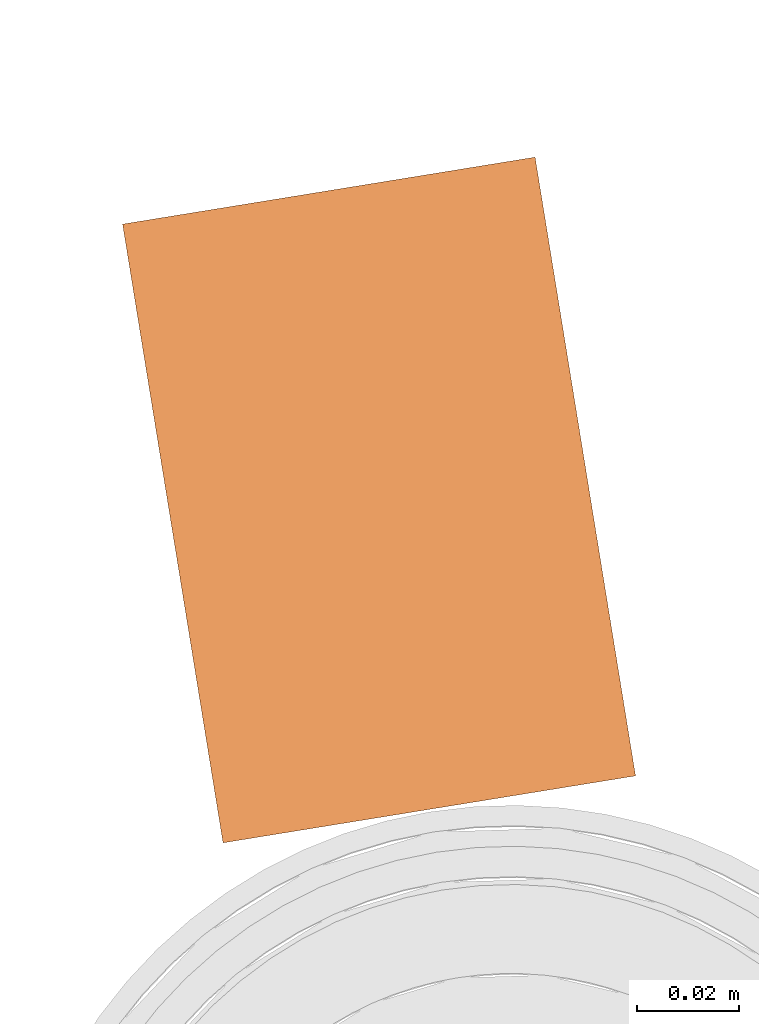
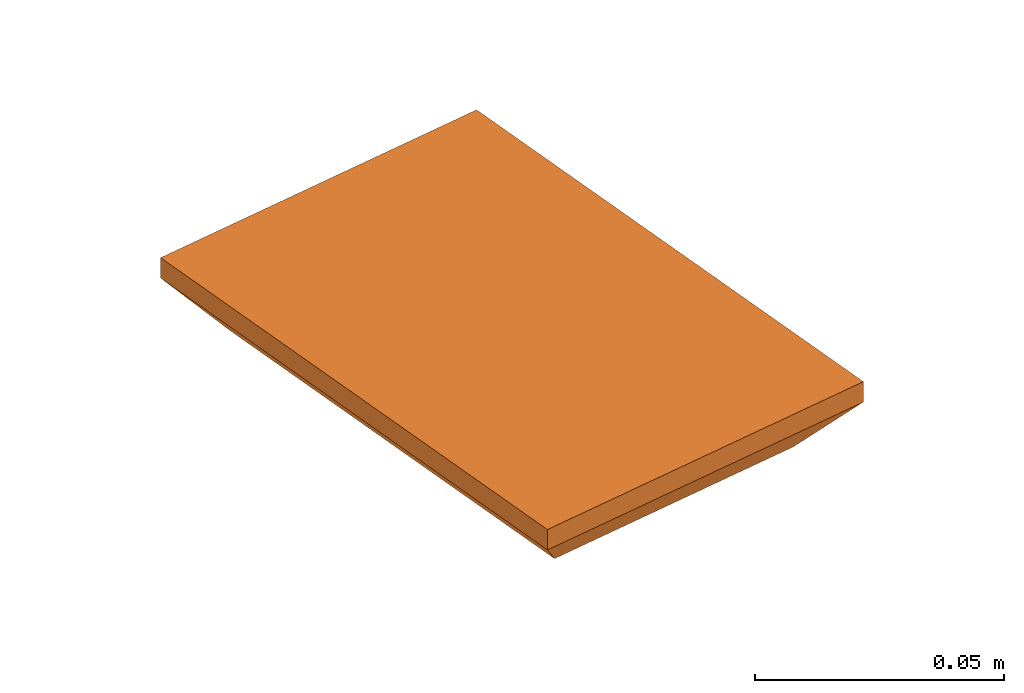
# One storey, part 16 of 20: 1 proxy.
"""IFC2X3 building model written with IfcOpenShell, lengths in millimetres."""

from ifc_helpers import new_model, entity, si_unit, converted_unit, derived_unit, direction, frame, origin, origin_with_axes, place, context, subcontext, project, spatial, faceted_brep, source, transform, mapped, material, type_object, element, save


model = new_model("IFC2X3")

# Units and contexts
model_context = context("Model", 3, precision=0.01, world=origin(), true_north=direction((6.12323399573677e-17, 1.0)))
plan_context = context("Plan", 3, precision=1e-05, world=origin_with_axes())
body_context = subcontext(model_context, "Body", "Model", "MODEL_VIEW")
ifc_project = project(units=[converted_unit("PLANEANGLEUNIT", "DEGREE", entity("IfcPositiveLengthMeasure", 0.0174532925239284), si_unit("PLANEANGLEUNIT", "RADIAN"), dimensions=[0, 0, 0, 0, 0, 0, 0]), si_unit("AREAUNIT", "SQUARE_METRE"), si_unit("LENGTHUNIT", "METRE", prefix="MILLI"), si_unit("MASSUNIT", "GRAM", prefix="KILO"), si_unit("POWERUNIT", "WATT"), si_unit("PRESSUREUNIT", "PASCAL", prefix="KILO"), si_unit("FORCEUNIT", "NEWTON", prefix="KILO"), si_unit("ELECTRICVOLTAGEUNIT", "VOLT"), si_unit("ELECTRICCURRENTUNIT", "AMPERE"), si_unit("THERMODYNAMICTEMPERATUREUNIT", "DEGREE_CELSIUS"), si_unit("TIMEUNIT", "SECOND"), si_unit("VOLUMEUNIT", "CUBIC_METRE"), derived_unit("LINEARVELOCITYUNIT", [(si_unit("LENGTHUNIT", "METRE"), 1), (si_unit("TIMEUNIT", "SECOND"), -1)]), derived_unit("VOLUMETRICFLOWRATEUNIT", [(si_unit("VOLUMEUNIT", "CUBIC_METRE"), 1), (si_unit("TIMEUNIT", "SECOND"), -1)]), derived_unit("THERMALTRANSMITTANCEUNIT", [(si_unit("POWERUNIT", "WATT"), 1), (si_unit("THERMODYNAMICTEMPERATUREUNIT", "KELVIN"), -1), (si_unit("AREAUNIT", "SQUARE_METRE"), -1)]), derived_unit("SOUNDPRESSUREUNIT", [(si_unit("PRESSUREUNIT", "PASCAL"), 1)])], contexts=[model_context, plan_context])

# Site, building, storey
site_placement = place(None, frame((-0.219946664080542, 0.12226179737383, 0.0), z_axis=(0.0, 0.0, 1.0), x_axis=(-0.160236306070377, 0.987078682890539, 0.0)))
site = spatial("IfcSite", under=ifc_project, at=site_placement, Name="Default", CompositionType="ELEMENT")
building_placement = place(site_placement, origin_with_axes())
building = spatial("IfcBuilding", under=site, at=building_placement, CompositionType="ELEMENT")
storey_placement = place(building_placement, frame((0.0, 0.0, 50999.9999999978), z_axis=(0.0, 0.0, 1.0), x_axis=(1.0, 0.0, 0.0)))
storey = spatial("IfcBuildingStorey", under=building, at=storey_placement, Name="Nivå D", CompositionType="ELEMENT", Elevation=50999.9999999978)

# Proxy
ifc_material = material(Name="<Unnamed>")
building_element_proxy_type = type_object("IfcBuildingElementProxyType", Name="Dobbel stikk i tak m_boks 2P+J PH:Earthed reces socket c2", PredefinedType="NOTDEFINED", material=ifc_material)
shared_shape = source(origin(), body_context, "Body", "Brep", [
    faceted_brep([(25.250000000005, -18.3000000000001, -17.8944271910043), (25.250000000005, -18.5954451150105, -17.489897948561), (25.250000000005, -18.7000000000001, -17.0), (25.250000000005, -18.7000000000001, -5.0), (25.250000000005, -19.5000000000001, -5.0), (25.250000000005, -19.5000000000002, -17.0), (25.250000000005, -18.9142135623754, -18.4142135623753), (25.250000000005, -17.5000000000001, -19.0), (25.250000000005, -17.5000000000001, -11.0), (25.250000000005, -18.3000000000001, -11.0), (24.250000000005, -19.5000000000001, -5.0), (24.250000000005, -18.7000000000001, -5.0), (24.250000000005, -18.7000000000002, -17.0), (24.250000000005, -18.5954451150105, -17.489897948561), (24.250000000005, -18.3000000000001, -17.8944271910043), (24.250000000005, -18.3000000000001, -11.0), (24.250000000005, -17.5000000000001, -11.0), (24.250000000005, -17.5000000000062, -19.0), (24.250000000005, -18.9142135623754, -18.4142135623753), (24.250000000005, -19.5000000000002, -17.0)], [[[0, 1, 2, 3, 4, 5, 6, 7, 8, 9]], [[10, 11, 12, 13, 14, 15, 16, 17, 18, 19]], [[11, 10, 4, 3]], [[12, 11, 3, 2]], [[2, 1, 13, 12]], [[0, 14, 13, 1]], [[15, 14, 0, 9]], [[16, 15, 9, 8]], [[17, 16, 8, 7]], [[17, 7, 6, 18]], [[6, 5, 19, 18]], [[10, 19, 5, 4]]]),
    faceted_brep([(24.250000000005, 18.3000000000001, -17.8944271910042), (24.250000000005, 18.5954451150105, -17.4898979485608), (24.250000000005, 18.7000000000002, -17.0), (24.250000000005, 18.7000000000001, -5.0), (24.250000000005, 19.5000000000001, -5.0), (24.250000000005, 19.5000000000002, -17.0), (24.250000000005, 18.9142135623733, -18.4142135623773), (24.250000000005, 17.5000000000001, -19.0), (24.250000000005, 17.5000000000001, -11.0), (24.250000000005, 18.3000000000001, -11.0), (25.250000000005, 19.5000000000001, -5.0), (25.250000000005, 18.7000000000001, -5.0), (25.250000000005, 18.7000000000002, -17.0), (25.250000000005, 18.5954451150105, -17.4898979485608), (25.250000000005, 18.3000000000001, -17.8944271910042), (25.250000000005, 18.3000000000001, -11.0), (25.250000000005, 17.5000000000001, -11.0), (25.250000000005, 17.5000000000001, -19.0), (25.250000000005, 18.9142135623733, -18.4142135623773), (25.250000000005, 19.5000000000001, -17.0)], [[[0, 1, 2, 3, 4, 5, 6, 7, 8, 9]], [[10, 11, 12, 13, 14, 15, 16, 17, 18, 19]], [[9, 8, 16, 15]], [[0, 9, 15, 14]], [[14, 13, 1, 0]], [[12, 2, 1, 13]], [[3, 2, 12, 11]], [[4, 3, 11, 10]], [[5, 4, 10, 19]], [[5, 19, 18, 6]], [[18, 17, 7, 6]], [[8, 7, 17, 16]]]),
    faceted_brep([(-25.249999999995, 18.9142135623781, -18.4142135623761), (-25.249999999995, 19.5000000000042, -17.0), (-25.249999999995, 19.5000000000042, -5.0), (-25.249999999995, 18.7000000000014, -5.0), (-25.249999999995, 18.7000000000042, -17.0), (-25.249999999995, 18.5954451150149, -17.4898979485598), (-25.249999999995, 18.3000000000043, -17.8944271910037), (-25.249999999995, 18.3000000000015, -11.0), (-25.249999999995, 17.5000000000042, -11.0), (-25.249999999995, 17.5000000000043, -19.0), (-26.249999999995, 19.5000000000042, -5.0), (-26.249999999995, 19.5000000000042, -17.0), (-26.249999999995, 18.9142135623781, -18.4142135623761), (-26.249999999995, 17.5000000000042, -19.0), (-26.249999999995, 17.5000000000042, -11.0), (-26.249999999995, 18.3000000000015, -11.0), (-26.249999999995, 18.3000000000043, -17.8944271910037), (-26.249999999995, 18.5954451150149, -17.4898979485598), (-26.249999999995, 18.7000000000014, -17.0), (-26.249999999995, 18.7000000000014, -5.0)], [[[0, 1, 2, 3, 4, 5, 6, 7, 8, 9]], [[10, 11, 12, 13, 14, 15, 16, 17, 18, 19]], [[11, 10, 2, 1]], [[11, 1, 0, 12]], [[0, 9, 13, 12]], [[14, 13, 9, 8]], [[16, 15, 7, 6]], [[6, 5, 17, 16]], [[4, 18, 17, 5]], [[19, 18, 4, 3]], [[10, 19, 3, 2]], [[15, 14, 8, 7]]]),
    faceted_brep([(-25.249999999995, -17.4999999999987, -19.0), (-25.249999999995, -17.4999999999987, -5.0), (-25.249999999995, -18.2999999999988, -5.0), (-25.249999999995, -18.2999999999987, -17.8944271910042), (-25.249999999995, -18.5954451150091, -17.4898979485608), (-25.249999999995, -18.6999999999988, -17.0), (-25.249999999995, -18.6999999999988, -11.0), (-25.249999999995, -19.4999999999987, -11.0), (-25.249999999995, -19.4999999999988, -17.0), (-25.249999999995, -18.9142135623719, -18.4142135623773), (-26.249999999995, -17.4999999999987, -5.0), (-26.249999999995, -17.4999999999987, -19.0), (-26.249999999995, -18.9142135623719, -18.4142135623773), (-26.249999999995, -19.4999999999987, -17.0), (-26.249999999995, -19.4999999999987, -11.0), (-26.249999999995, -18.6999999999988, -11.0), (-26.249999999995, -18.6999999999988, -17.0), (-26.249999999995, -18.5954451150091, -17.4898979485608), (-26.249999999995, -18.2999999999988, -17.8944271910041), (-26.249999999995, -18.2999999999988, -5.0)], [[[0, 1, 2, 3, 4, 5, 6, 7, 8, 9]], [[10, 11, 12, 13, 14, 15, 16, 17, 18, 19]], [[11, 10, 1, 0]], [[0, 9, 12, 11]], [[12, 9, 8, 13]], [[14, 13, 8, 7]], [[15, 14, 7, 6]], [[16, 15, 6, 5]], [[4, 17, 16, 5]], [[3, 18, 17, 4]], [[19, 18, 3, 2]], [[10, 19, 2, 1]]]),
    faceted_brep([(15.7500000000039, -2.5, -5.0), (16.3750000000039, -1.875, -5.0), (17.0, -1.25, -5.0), (17.6250000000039, -0.625000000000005, -5.0), (18.2500000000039, 0.0, -5.0), (17.7008289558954, 0.54917104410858, -5.0), (17.0, 1.25, -5.0), (16.375000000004, 1.875, -5.0), (15.750000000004, 2.5, -5.0), (15.125000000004, 1.87500000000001, -5.0), (14.500000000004, 1.25000000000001, -5.0), (13.8750000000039, 0.625000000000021, -5.0), (13.2500000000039, 0.0, -5.0), (13.7991710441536, -0.549171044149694, -5.0), (14.5000000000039, -1.25, -5.0), (15.1250000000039, -1.875, -5.0), (17.7008289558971, -0.549171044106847, -5.20000000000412), (17.1516579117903, -1.09834208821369, -5.20000000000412), (16.4508289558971, -1.79917104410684, -5.20000000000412), (15.7500000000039, -2.5, -5.20000000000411), (15.1250000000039, -1.875, -5.20000000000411), (14.5000000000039, -1.25, -5.20000000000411), (13.8750000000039, -0.625, -5.20000000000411), (13.2500000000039, 0.0, -5.2000000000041), (13.7991710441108, 0.54917104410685, -5.20000000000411), (14.3483420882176, 1.09834208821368, -5.20000000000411), (15.0491710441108, 1.79917104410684, -5.20000000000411), (15.750000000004, 2.5, -5.20000000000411), (16.375000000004, 1.875, -5.20000000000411), (17.0, 1.25, -5.20000000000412), (17.6250000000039, 0.624999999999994, -5.20000000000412), (18.2500000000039, 0.0, -5.20000000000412)], [[[0, 1, 2, 3, 4, 5, 6, 7, 8, 9, 10, 11, 12, 13, 14, 15]], [[16, 17, 18, 19, 20, 21, 22, 23, 24, 25, 26, 27, 28, 29, 30, 31]], [[29, 28, 27, 8, 7, 6, 5, 4, 31, 30]], [[8, 27, 26, 25, 24, 23, 12, 11, 10, 9]], [[21, 20, 19, 0, 15, 14, 13, 12, 23, 22]], [[0, 19, 18, 17, 16, 31, 4, 3, 2, 1]]]),
    faceted_brep([(35.0491710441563, -1.79917104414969, -5.20000000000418), (34.348342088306, -1.09834208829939, -5.20000000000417), (33.7991710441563, -0.549171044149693, -5.20000000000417), (33.2500000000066, 0.0, -5.20000000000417), (33.8750000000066, 0.625000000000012, -5.20000000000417), (34.5000000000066, 1.25000000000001, -5.20000000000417), (35.1250000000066, 1.875, -5.20000000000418), (35.7500000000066, 2.5, -5.20000000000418), (36.450828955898, 1.79917104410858, -5.20000000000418), (37.1516579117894, 1.09834208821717, -5.20000000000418), (37.700828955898, 0.54917104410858, -5.20000000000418), (38.2500000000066, 0.0, -5.20000000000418), (37.6250000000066, -0.625000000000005, -5.20000000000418), (37.0, -1.25, -5.20000000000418), (36.3750000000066, -1.875, -5.20000000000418), (35.7500000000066, -2.5, -5.20000000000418), (35.1250000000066, 1.87500000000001, -5.0), (34.5000000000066, 1.25000000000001, -5.0), (33.7991710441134, 0.549171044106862, -5.0), (33.2500000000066, 0.0, -5.0), (33.8750000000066, -0.625, -5.0), (34.5000000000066, -1.25, -5.0), (35.1250000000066, -1.875, -5.0), (35.7500000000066, -2.5, -5.0), (36.3750000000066, -1.875, -5.0), (37.0, -1.25, -5.0), (37.7008289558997, -0.549171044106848, -5.0), (38.2500000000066, 0.0, -5.0), (37.6250000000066, 0.624999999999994, -5.0), (37.0, 1.25, -5.0), (36.3750000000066, 1.875, -5.0), (35.7500000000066, 2.5, -5.0)], [[[0, 1, 2, 3, 4, 5, 6, 7, 8, 9, 10, 11, 12, 13, 14, 15]], [[16, 17, 18, 19, 20, 21, 22, 23, 24, 25, 26, 27, 28, 29, 30, 31]], [[30, 29, 28, 27, 11, 10, 9, 8, 7, 31]], [[31, 7, 6, 5, 4, 3, 19, 18, 17, 16]], [[22, 21, 20, 19, 3, 2, 1, 0, 15, 23]], [[23, 15, 14, 13, 12, 11, 27, 26, 25, 24]]]),
    faceted_brep([(-36.3749999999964, 1.87500000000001, -5.0), (-37.0, 1.25000000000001, -5.0), (-37.6249999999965, 0.625000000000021, -5.0), (-38.2499999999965, 0.0, -5.0), (-37.7008289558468, -0.549171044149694, -5.0), (-37.0, -1.25, -5.0), (-36.3749999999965, -1.875, -5.0), (-35.7499999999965, -2.5, -5.0), (-35.1249999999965, -1.875, -5.0), (-34.4999999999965, -1.25, -5.0), (-33.8749999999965, -0.625000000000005, -5.0), (-33.2499999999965, 0.0, -5.0), (-33.799171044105, 0.54917104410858, -5.0), (-34.4999999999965, 1.25, -5.0), (-35.1249999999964, 1.875, -5.0), (-35.7499999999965, 2.5, -5.0), (-36.3749999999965, -1.875, -5.20000000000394), (-37.0, -1.25, -5.20000000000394), (-37.6249999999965, -0.625, -5.20000000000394), (-38.2499999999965, 0.0, -5.20000000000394), (-37.7008289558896, 0.54917104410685, -5.20000000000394), (-37.1516579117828, 1.09834208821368, -5.20000000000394), (-36.4508289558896, 1.79917104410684, -5.20000000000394), (-35.7499999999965, 2.5, -5.20000000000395), (-35.1249999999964, 1.875, -5.20000000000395), (-34.4999999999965, 1.25, -5.20000000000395), (-33.8749999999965, 0.624999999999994, -5.20000000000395), (-33.2499999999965, 0.0, -5.20000000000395), (-33.7991710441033, -0.549171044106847, -5.20000000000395), (-34.3483420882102, -1.09834208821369, -5.20000000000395), (-35.0491710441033, -1.79917104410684, -5.20000000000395), (-35.7499999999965, -2.5, -5.20000000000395)], [[[0, 1, 2, 3, 4, 5, 6, 7, 8, 9, 10, 11, 12, 13, 14, 15]], [[16, 17, 18, 19, 20, 21, 22, 23, 24, 25, 26, 27, 28, 29, 30, 31]], [[25, 24, 23, 15, 14, 13, 12, 11, 27, 26]], [[15, 23, 22, 21, 20, 19, 3, 2, 1, 0]], [[17, 16, 31, 7, 6, 5, 4, 3, 19, 18]], [[7, 31, 30, 29, 28, 27, 11, 10, 9, 8]]]),
    faceted_brep([(-16.4508289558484, -1.79917104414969, -5.20000000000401), (-17.1516579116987, -1.09834208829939, -5.20000000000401), (-17.7008289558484, -0.549171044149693, -5.200000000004), (-18.2499999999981, 0.0, -5.200000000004), (-17.6249999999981, 0.625000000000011, -5.200000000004), (-17.0, 1.25000000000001, -5.20000000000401), (-16.3749999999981, 1.875, -5.20000000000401), (-15.7499999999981, 2.5, -5.20000000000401), (-15.0491710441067, 1.79917104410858, -5.20000000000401), (-14.3483420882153, 1.09834208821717, -5.20000000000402), (-13.7991710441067, 0.549171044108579, -5.20000000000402), (-13.2499999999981, 0.0, -5.20000000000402), (-13.8749999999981, -0.625000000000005, -5.20000000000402), (-14.4999999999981, -1.25, -5.20000000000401), (-15.1249999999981, -1.875, -5.20000000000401), (-15.7499999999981, -2.5, -5.20000000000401), (-16.3749999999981, 1.87500000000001, -5.0), (-17.0, 1.25000000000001, -5.0), (-17.7008289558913, 0.549171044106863, -5.0), (-18.2499999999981, 0.0, -5.0), (-17.6249999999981, -0.625, -5.0), (-17.0, -1.25, -5.0), (-16.3749999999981, -1.875, -5.0), (-15.7499999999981, -2.5, -5.0), (-15.1249999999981, -1.875, -5.0), (-14.4999999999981, -1.25, -5.0), (-13.799171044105, -0.549171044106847, -5.0), (-13.2499999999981, 0.0, -5.0), (-13.8749999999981, 0.624999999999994, -5.0), (-14.4999999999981, 1.25, -5.0), (-15.1249999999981, 1.875, -5.0), (-15.7499999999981, 2.5, -5.0)], [[[0, 1, 2, 3, 4, 5, 6, 7, 8, 9, 10, 11, 12, 13, 14, 15]], [[16, 17, 18, 19, 20, 21, 22, 23, 24, 25, 26, 27, 28, 29, 30, 31]], [[30, 29, 28, 27, 11, 10, 9, 8, 7, 31]], [[31, 7, 6, 5, 4, 3, 19, 18, 17, 16]], [[22, 21, 20, 19, 3, 2, 1, 0, 15, 23]], [[23, 15, 14, 13, 12, 11, 27, 26, 25, 24]]]),
    faceted_brep([(-51.5000000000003, -31.0, -17.0), (-35.7500000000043, -17.3205080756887, -17.0), (-30.9263809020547, -19.3185165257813, -17.0), (-39.8921356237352, -14.1421356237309, -17.0), (-25.750000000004, -20.0, -17.0), (-20.5736190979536, -19.3185165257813, -17.0), (20.5736190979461, -19.3185165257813, -17.0), (-43.070508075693, -10.0, -17.0), (-45.0685165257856, -5.1763809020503, -17.0), (-45.7500000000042, 0.0, -17.0), (51.5000000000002, -31.0, -17.0), (-51.5000000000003, 31.0, -17.0), (-45.0685165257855, 5.17638090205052, -17.0), (-43.0705080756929, 10.0, -17.0), (-39.892135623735, 14.142135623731, -17.0), (-35.7500000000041, 17.3205080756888, -17.0), (-30.9263809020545, 19.3185165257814, -17.0), (-25.7500000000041, 20.0, -17.0), (-20.5736190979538, 19.3185165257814, -17.0), (20.5736190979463, 19.3185165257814, -17.0), (51.5000000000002, 31.0, -17.0), (25.7499999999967, 20.0, -17.0), (30.926380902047, 19.3185165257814, -17.0), (35.7499999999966, 17.3205080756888, -17.0), (39.8921356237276, 14.142135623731, -17.0), (43.0705080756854, 10.0, -17.0), (45.068516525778, 5.1763809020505, -17.0), (45.7499999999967, 0.0, -17.0), (25.7499999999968, -20.0, -17.0), (30.9263809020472, -19.3185165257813, -17.0), (35.7499999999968, -17.3205080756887, -17.0), (39.8921356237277, -14.1421356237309, -17.0), (43.0705080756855, -10.0, -17.0), (45.0685165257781, -5.17638090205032, -17.0), (15.7499999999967, 17.3205080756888, -17.0), (-15.7500000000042, 17.3205080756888, -17.0), (11.6078643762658, 14.142135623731, -17.0), (-11.6078643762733, 14.142135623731, -17.0), (8.42949192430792, 10.0, -17.0), (-8.42949192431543, 10.0, -17.0), (6.4314834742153, 5.17638090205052, -17.0), (-6.43148347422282, 5.1763809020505, -17.0), (-5.75000000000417, 0.0, -17.0), (5.74999999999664, 0.0, -17.0), (6.43148347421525, -5.1763809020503, -17.0), (-6.43148347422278, -5.17638090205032, -17.0), (-8.42949192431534, -10.0, -17.0), (8.42949192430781, -10.0, -17.0), (-11.6078643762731, -14.1421356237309, -17.0), (11.6078643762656, -14.1421356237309, -17.0), (-15.7500000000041, -17.3205080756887, -17.0), (15.7499999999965, -17.3205080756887, -17.0), (61.5000000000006, -41.0, -5.0), (35.7499999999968, -17.3205080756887, -5.0), (30.9263809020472, -19.3185165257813, -5.0), (39.8921356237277, -14.1421356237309, -5.0), (25.7499999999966, -20.0, -5.0), (20.5736190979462, -19.3185165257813, -5.0), (-20.5736190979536, -19.3185165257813, -5.0), (43.0705080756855, -10.0, -5.0), (45.0685165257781, -5.17638090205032, -5.0), (45.7499999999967, 0.0, -5.0), (-61.5000000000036, -41.0, -5.0), (61.5000000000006, 41.0, -5.0), (45.068516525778, 5.1763809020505, -5.0), (43.0705080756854, 10.0, -5.0), (39.8921356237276, 14.142135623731, -5.0), (35.7499999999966, 17.3205080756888, -5.0), (30.9263809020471, 19.3185165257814, -5.0), (25.7499999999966, 20.0, -5.0), (20.5736190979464, 19.3185165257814, -5.0), (-20.5736190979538, 19.3185165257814, -5.0), (-61.5000000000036, 41.0, -5.0), (-25.7500000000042, 20.0, -5.0), (-30.9263809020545, 19.3185165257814, -5.0), (-35.750000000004, 17.3205080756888, -5.0), (-39.892135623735, 14.142135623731, -5.0), (-43.0705080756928, 10.0, -5.0), (-45.0685165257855, 5.17638090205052, -5.0), (-45.7500000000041, 0.0, -5.0), (-25.7500000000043, -20.0, -5.0), (-30.9263809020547, -19.3185165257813, -5.0), (-35.7500000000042, -17.3205080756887, -5.0), (-39.8921356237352, -14.1421356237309, -5.0), (-43.070508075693, -10.0, -5.0), (-45.0685165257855, -5.1763809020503, -5.0), (-15.7500000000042, 17.3205080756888, -5.0), (15.7499999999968, 17.3205080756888, -5.0), (-11.6078643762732, 14.142135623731, -5.0), (11.6078643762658, 14.142135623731, -5.0), (-8.4294919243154, 10.0, -5.0), (8.42949192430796, 10.0, -5.0), (-6.43148347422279, 5.1763809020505, -5.0), (6.43148347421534, 5.17638090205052, -5.0), (5.74999999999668, 0.0, -5.0), (-5.75000000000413, 0.0, -5.0), (-6.43148347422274, -5.17638090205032, -5.0), (6.43148347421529, -5.1763809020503, -5.0), (8.42949192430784, -10.0, -5.0), (-8.4294919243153, -10.0, -5.0), (11.6078643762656, -14.1421356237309, -5.0), (-11.6078643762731, -14.1421356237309, -5.0), (15.7499999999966, -17.3205080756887, -5.0), (-15.750000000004, -17.3205080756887, -5.0)], [[[0, 1, 2]], [[1, 0, 3]], [[0, 2, 4]], [[4, 5, 0]], [[0, 5, 6]], [[7, 3, 0]], [[8, 7, 0]], [[0, 9, 8]], [[6, 10, 0]], [[9, 0, 11]], [[12, 9, 11]], [[13, 12, 11]], [[11, 14, 13]], [[14, 11, 15]], [[15, 11, 16]], [[17, 16, 11]], [[18, 17, 11]], [[11, 19, 18]], [[19, 11, 20]], [[21, 19, 20]], [[20, 22, 21]], [[22, 20, 23]], [[24, 23, 20]], [[24, 20, 25]], [[26, 25, 20]], [[27, 26, 20]], [[27, 20, 10]], [[6, 28, 10]], [[29, 10, 28]], [[10, 29, 30]], [[10, 30, 31]], [[31, 32, 10]], [[32, 33, 10]], [[10, 33, 27]], [[19, 34, 18]], [[35, 18, 34]], [[36, 35, 34]], [[37, 35, 36]], [[36, 38, 37]], [[39, 37, 38]], [[38, 40, 39]], [[41, 39, 40]], [[40, 42, 41]], [[42, 40, 43]], [[43, 44, 42]], [[45, 42, 44]], [[46, 45, 44]], [[44, 47, 46]], [[48, 46, 47]], [[47, 49, 48]], [[50, 48, 49]], [[51, 50, 49]], [[5, 50, 51]], [[51, 6, 5]], [[52, 53, 54]], [[53, 52, 55]], [[52, 54, 56]], [[56, 57, 52]], [[52, 57, 58]], [[59, 55, 52]], [[60, 59, 52]], [[52, 61, 60]], [[58, 62, 52]], [[61, 52, 63]], [[64, 61, 63]], [[65, 64, 63]], [[63, 66, 65]], [[66, 63, 67]], [[67, 63, 68]], [[69, 68, 63]], [[70, 69, 63]], [[70, 63, 71]], [[63, 72, 71]], [[73, 71, 72]], [[72, 74, 73]], [[74, 72, 75]], [[76, 75, 72]], [[76, 72, 77]], [[78, 77, 72]], [[79, 78, 72]], [[79, 72, 62]], [[58, 80, 62]], [[81, 62, 80]], [[62, 81, 82]], [[62, 82, 83]], [[83, 84, 62]], [[84, 85, 62]], [[62, 85, 79]], [[86, 70, 71]], [[86, 87, 70]], [[88, 87, 86]], [[89, 87, 88]], [[88, 90, 89]], [[91, 89, 90]], [[90, 92, 91]], [[93, 91, 92]], [[92, 94, 93]], [[94, 92, 95]], [[95, 96, 94]], [[97, 94, 96]], [[98, 97, 96]], [[96, 99, 98]], [[100, 98, 99]], [[99, 101, 100]], [[102, 100, 101]], [[103, 102, 101]], [[103, 57, 102]], [[58, 57, 103]], [[20, 63, 52, 10]], [[11, 72, 63, 20]], [[0, 62, 72, 11]], [[10, 52, 62, 0]], [[73, 17, 18, 71]], [[71, 18, 35, 86]], [[90, 88, 37, 39]], [[37, 88, 86, 35]], [[92, 90, 39, 41]], [[92, 41, 42, 95]], [[95, 42, 45, 96]], [[96, 45, 46, 99]], [[103, 101, 48, 50]], [[48, 101, 99, 46]], [[58, 103, 50, 5]], [[58, 5, 4, 80]], [[80, 4, 2, 81]], [[81, 2, 1, 82]], [[84, 83, 3, 7]], [[3, 83, 82, 1]], [[85, 84, 7, 8]], [[85, 8, 9, 79]], [[79, 9, 12, 78]], [[78, 12, 13, 77]], [[75, 76, 14, 15]], [[14, 76, 77, 13]], [[74, 75, 15, 16]], [[74, 16, 17, 73]], [[69, 21, 22, 68]], [[68, 22, 23, 67]], [[65, 66, 24, 25]], [[23, 24, 66, 67]], [[64, 65, 25, 26]], [[27, 61, 64, 26]], [[60, 33, 32, 59]], [[59, 32, 31, 55]], [[54, 53, 30, 29]], [[31, 30, 53, 55]], [[56, 54, 29, 28]], [[60, 61, 27, 33]], [[56, 28, 6, 57]], [[57, 6, 51, 102]], [[98, 100, 49, 47]], [[51, 49, 100, 102]], [[97, 98, 47, 44]], [[43, 94, 97, 44]], [[93, 40, 38, 91]], [[91, 38, 36, 89]], [[70, 87, 34, 19]], [[36, 34, 87, 89]], [[69, 70, 19, 21]], [[93, 94, 43, 40]]]),
    faceted_brep([(61.5000000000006, -41.0, 0.0), (61.5000000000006, 41.0, 0.0), (-61.5000000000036, 41.0, 0.0), (-61.5000000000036, -41.0, 0.0), (61.5000000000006, -41.0, -5.0), (-61.5000000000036, -41.0, -5.0), (-61.5000000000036, 41.0, -5.0), (61.5000000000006, 41.0, -5.0)], [[[0, 1, 2, 3]], [[4, 5, 6, 7]], [[1, 0, 4, 7]], [[2, 1, 7, 6]], [[3, 2, 6, 5]], [[0, 3, 5, 4]]]),
])
proxy_placement = place(storey_placement, frame((779064.119644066, -590407.481738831, 3610.0000000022), z_axis=(0.0, 0.0, 1.0), x_axis=(1.0, 0.0, 0.0)))
element("IfcBuildingElementProxy", 1, at=proxy_placement, inside=storey, type_object=building_element_proxy_type, material=ifc_material, Name="Dobbel stikk i tak m_boks 2P+J PH:Earthed reces socket c2", ObjectType="Dobbel stikk i tak m_boks 2P+J PH:Earthed reces socket c2", context=body_context, shape_type="MappedRepresentation", body=[
    mapped(shared_shape, transform((0.0, 0.0, 0.0), scale=1.0)),
])

save(model, "model.ifc")
